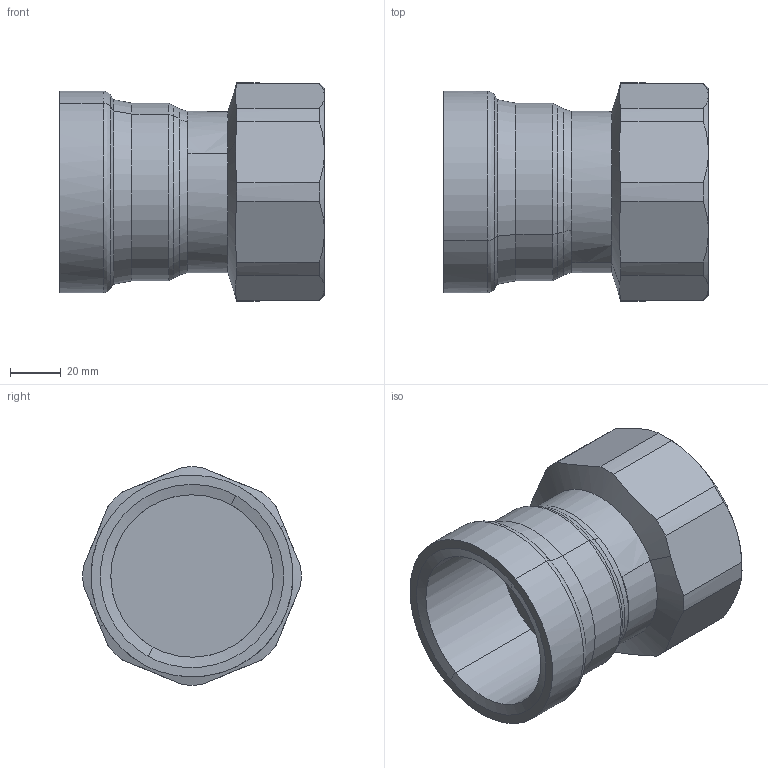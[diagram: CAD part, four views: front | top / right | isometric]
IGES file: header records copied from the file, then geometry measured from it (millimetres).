
Start section: 3D InterOp IGES (Version 25 0 1), Spatial Corp. Copyright (c) 1999-2007.
Global section: file name: pim0004332.igs; native system: Spatial Corp.; preprocessor: 3D InterOp ACIS/IGES; author: Cad-Pim; organization: TransMagic, Inc.; date: 20150430.101325; units: millimetre
Bounding box: 104.3 x 85.96 x 85.96 mm (x, y, z)
Volume: 208162.8 mm3; surface area: 52523.6 mm2
Topology: 1 solids, 1 shells, 56 faces, 155 edges, 103 vertices
Faces by surface type: bspline 24, cylinder 16, cone 16
